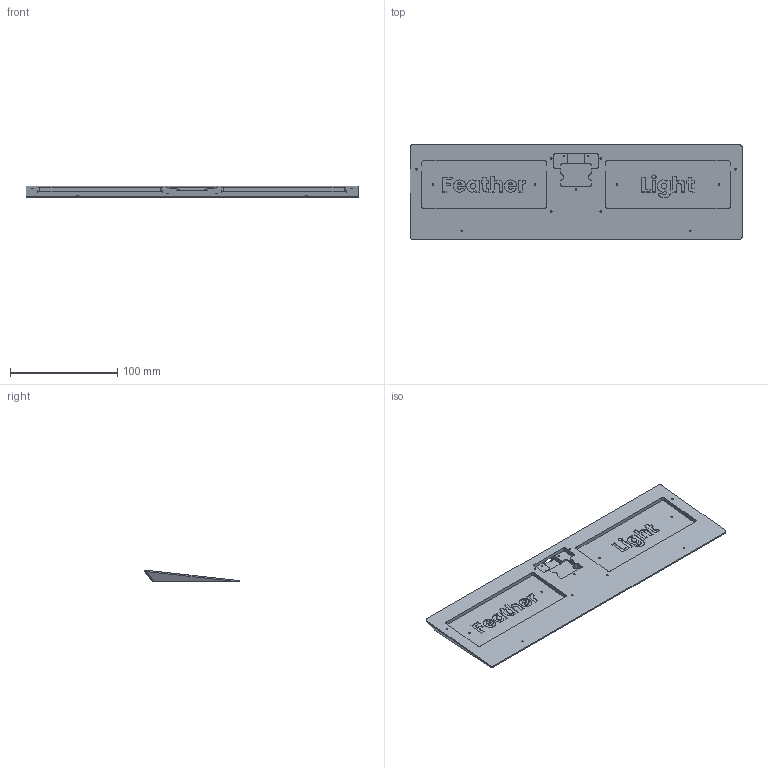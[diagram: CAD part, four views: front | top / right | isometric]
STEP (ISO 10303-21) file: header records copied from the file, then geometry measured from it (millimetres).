
FILE_DESCRIPTION(/* description */ ('STEP AP242','CAx-IF Rec.Pracs.---Representation and Presentation of Product Manufacturing Information (PMI)---4.0---2014-10-13','CAx-IF Rec.Pracs.---3D Tessellated Geometry---0.4---2014-09-14','2;1','CAx-IF Rec.Pracs.---User Defined Attributes---1.5---2016-08-15'),/* implementation_level */ '2;1');
FILE_NAME(/* name */ '6909d8211ce0515516c45779',/* time_stamp */ '2025-11-04T10:40:34Z',/* author */ (''),/* organization */ (''),/* preprocessor_version */ 'ST-DEVELOPER v20',/* originating_system */ 'ONSHAPE BY PTC INC, 1.206',/* authorisation */ ' ');
FILE_SCHEMA (('AP242_MANAGED_MODEL_BASED_3D_ENGINEERING_MIM_LF { 1 0 10303 442 1 1 4 }'));
Length unit declared in the file: metre
Products named in the file (1): Part 1
Bounding box: 309 x 88 x 11 mm (x, y, z)
Volume: 107038.9 mm3; surface area: 61663 mm2
Topology: 1 solids, 1 shells, 344 faces, 919 edges, 612 vertices
Faces by surface type: plane 164, bspline 117, cylinder 63
Full cylindrical faces by diameter (mm): 1.5 x15, 12 x2
Entity records: 11036 total; most frequent: CARTESIAN_POINT 3154, ORIENTED_EDGE 1804, DIRECTION 1250, EDGE_CURVE 902, VERTEX_POINT 612, LINE 538, VECTOR 538, EDGE_LOOP 402
